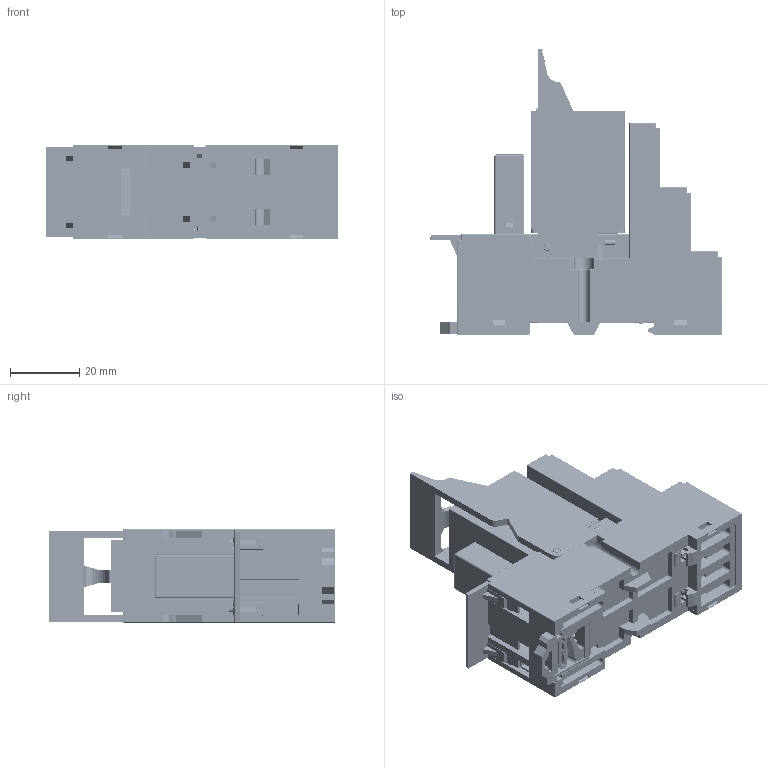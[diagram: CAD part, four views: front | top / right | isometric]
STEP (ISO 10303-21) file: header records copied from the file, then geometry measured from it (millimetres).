
FILE_DESCRIPTION (( 'STEP AP214' ), '1' );
FILE_NAME ('12. IR-4CO_IR-B4-SC-2_IR-RB-2_IR-MP-2_IR-FM.STEP', '2023-06-08T05:52:47', ( '' ), ( '' ), 'SwSTEP 2.0', 'SolidWorks 2022', '' );
FILE_SCHEMA (( 'AUTOMOTIVE_DESIGN' ));
Length unit declared in the file: millimetre
Products named in the file (6): IR-B4-SC-2; IR-FM; IR-4CO; 12. IR-4CO_IR-B4-SC-2_IR-RB-2_IR-MP-2_IR-FM; IR-MP-2 (DKC); IR-RB-2 (DKC)
Assembly tree (5 placements, depth 2):
  12. IR-4CO_IR-B4-SC-2_IR-RB-2_IR-MP-2_IR-FM
    IR-B4-SC-2
    IR-4CO
    IR-RB-2 (DKC)
    IR-MP-2 (DKC)
    IR-FM
Bounding box: 84.2 x 82.2 x 26.9 mm (x, y, z)
Volume: 65943.6 mm3; surface area: 59125.1 mm2
Topology: 32 solids, 35 shells, 6587 faces, 17312 edges, 10947 vertices
Faces by surface type: plane 3805, cylinder 1045, bspline 998, cone 739
Entity records: 286554 total; most frequent: CARTESIAN_POINT 66035, ORIENTED_EDGE 34486, DIRECTION 31126, EDGE_CURVE 17243, VECTOR 11892, LINE 11892, VERTEX_POINT 10947, AXIS2_PLACEMENT_3D 9617
